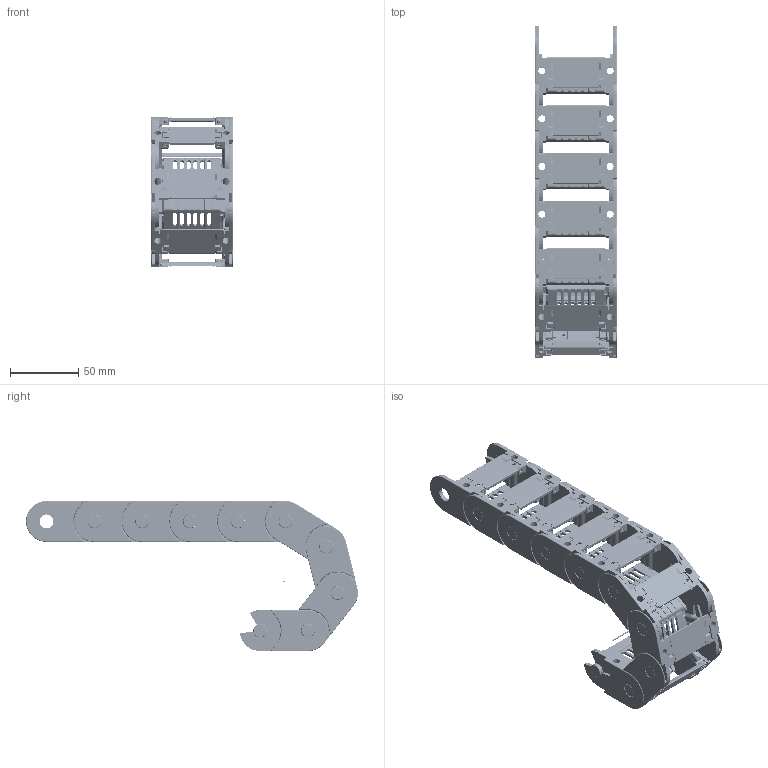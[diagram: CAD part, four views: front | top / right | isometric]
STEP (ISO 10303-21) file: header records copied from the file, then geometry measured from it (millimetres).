
FILE_DESCRIPTION((''),'2;1');
FILE_NAME('C:\Uebbing\PARAMETERKETTEN\KOLIBRI\Kol_30_060_1\KOLIBRI 30_060_1_R40.stp','2012-03-05T09:14:58',('Uebbing'),(''),'Autodesk Inventor 10','Autodesk Inventor 10','');
FILE_SCHEMA(('AUTOMOTIVE_DESIGN { 1 0 10303 214 1 1 1 1 }'));
Length unit declared in the file: millimetre
Products named in the file (5): KOLIBRI 30_060_1_PARAMETRISCH; Achse; Kolibri 30_060_1 Glied; Kol 30_060_1 Lasche; Kol 30_060_0 Klappsteg
Assembly tree (12 placements, depth 3):
  KOLIBRI 30_060_1_PARAMETRISCH
    Achse
    Kolibri 30_060_1 Glied  x9
      Kol 30_060_1 Lasche
      Kol 30_060_0 Klappsteg
Bounding box: 60 x 243.06 x 110 mm (x, y, z)
Volume: 141915.3 mm3; surface area: 135460.4 mm2
Topology: 19 solids, 19 shells, 6447 faces, 17941 edges, 11676 vertices
Faces by surface type: plane 2711, bspline 2169, cylinder 1279, torus 207, cone 54, sphere 27
Full cylindrical faces by diameter (mm): 1 x1, 1.166 x9, 2.048 x9, 2.8 x54, 5.1 x9, 10 x9, 10.1 x9
Entity records: 26275 total; most frequent: CARTESIAN_POINT 8627, ORIENTED_EDGE 3906, DIRECTION 3249, EDGE_CURVE 1953, VERTEX_POINT 1286, VECTOR 1211, LINE 1211, AXIS2_PLACEMENT_3D 1019
